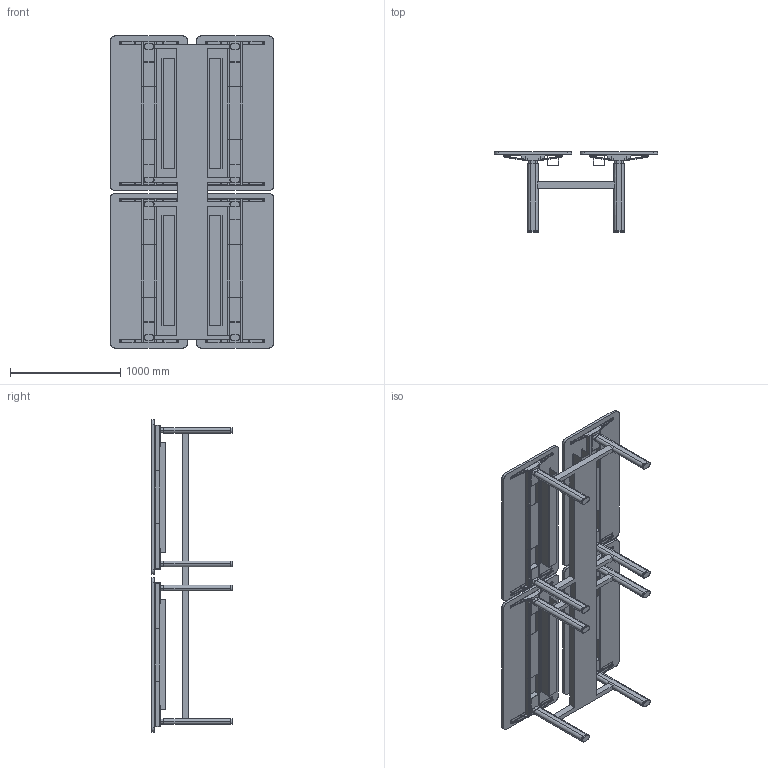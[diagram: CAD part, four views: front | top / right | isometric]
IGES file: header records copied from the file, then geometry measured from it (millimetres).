
Start section: SolidWorks IGES file using analytic representation for surfaces
Global section: file name: C:\Users\simone.cerana\OneDrive - Gruppo Tecno\Desktop\CHINA\DISEGNI DI SERIE\ASSIEMI LISTINO\AXIS LISTINO\FULL OPT\AX2814FO.IGS; native system: SolidWorks 2024; preprocessor: SolidWorks 2024; author: simone.cerana; date: 260512.113438; units: millimetre
Bounding box: 1480 x 730.14 x 2830 mm (x, y, z)
Surface area: 16399892.7 mm2 (no closed solid volume)
Topology: 0 solids, 0 shells, 1246 faces, 13976 edges, 13960 vertices
Faces by surface type: bspline 670, revolution 576
